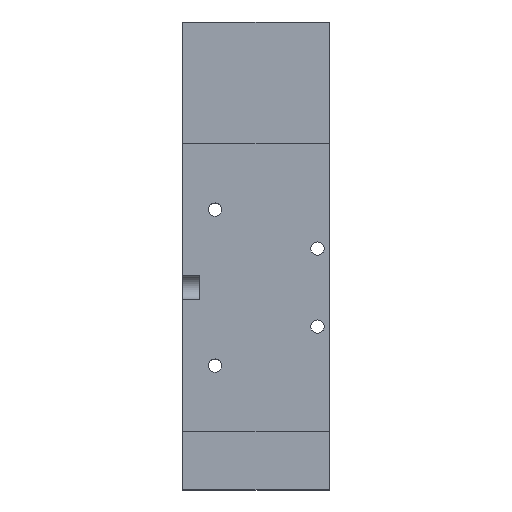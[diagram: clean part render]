
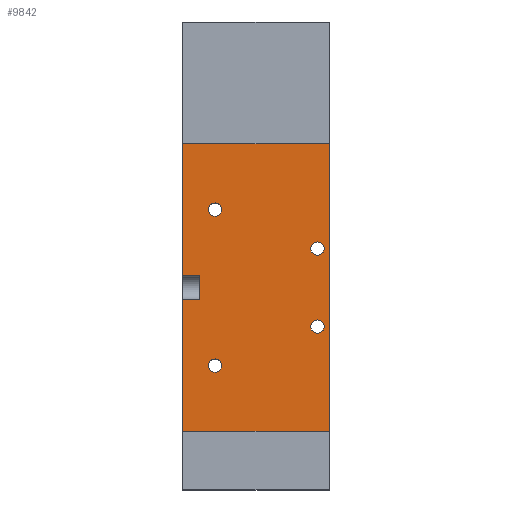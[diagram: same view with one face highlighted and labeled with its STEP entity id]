
A CAD part, front view. The second image highlights one B-rep face of the part: STEP entity #9842.
In plain terms, the highlighted planar face has unit normal (0, -1, 0).
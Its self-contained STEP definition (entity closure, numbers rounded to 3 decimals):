
#67 = AXIS2_PLACEMENT_3D ( 'NONE', #9245, #5981, #1229 ) ;
#265 = VERTEX_POINT ( 'NONE', #10364 ) ;
#684 = EDGE_CURVE ( 'NONE', #20392, #17866, #19107, .T. ) ;
#1229 = DIRECTION ( 'NONE',  ( 0., 0., -1. ) ) ;
#1317 = EDGE_LOOP ( 'NONE', ( #5761, #5879, #7862, #13280, #18558, #16921, #5735, #18130 ) ) ;
#1375 = VECTOR ( 'NONE', #8671, 1000. ) ;
#1401 = LINE ( 'NONE', #13881, #16219 ) ;
#1450 = EDGE_CURVE ( 'NONE', #19312, #16662, #2869, .T. ) ;
#1458 = EDGE_CURVE ( 'NONE', #3170, #12318, #17843, .T. ) ;
#1791 = CIRCLE ( 'NONE', #11354, 2.75 ) ;
#2351 = CARTESIAN_POINT ( 'NONE',  ( -11.097, 100.99, -88.703 ) ) ;
#2551 = EDGE_LOOP ( 'NONE', ( #19948, #17934 ) ) ;
#2647 = LINE ( 'NONE', #15005, #13009 ) ;
#2665 = ORIENTED_EDGE ( 'NONE', *, *, #4844, .T. ) ;
#2675 = CARTESIAN_POINT ( 'NONE',  ( 44.103, 100.99, -112.453 ) ) ;
#2869 = CIRCLE ( 'NONE', #12308, 2.75 ) ;
#3155 = AXIS2_PLACEMENT_3D ( 'NONE', #14961, #8686, #11835 ) ;
#3170 = VERTEX_POINT ( 'NONE', #8909 ) ;
#3744 = CARTESIAN_POINT ( 'NONE',  ( 44.103, 100.99, -77.703 ) ) ;
#3771 = EDGE_CURVE ( 'NONE', #17836, #9136, #6031, .T. ) ;
#3841 = AXIS2_PLACEMENT_3D ( 'NONE', #19145, #16146, #6744 ) ;
#3877 = DIRECTION ( 'NONE',  ( 1., 0., 0. ) ) ;
#3996 = FACE_BOUND ( 'NONE', #10973, .T. ) ;
#4257 = VECTOR ( 'NONE', #8836, 1000. ) ;
#4468 = DIRECTION ( 'NONE',  ( 0., 0., -1. ) ) ;
#4554 = CARTESIAN_POINT ( 'NONE',  ( 44.103, 100.99, -109.703 ) ) ;
#4688 = EDGE_CURVE ( 'NONE', #16662, #19312, #12317, .T. ) ;
#4844 = EDGE_CURVE ( 'NONE', #17866, #20392, #11082, .T. ) ;
#4909 = CARTESIAN_POINT ( 'NONE',  ( -4.097, 100.99, -98.703 ) ) ;
#5335 = LINE ( 'NONE', #12163, #19018 ) ;
#5536 = VERTEX_POINT ( 'NONE', #2351 ) ;
#5575 = DIRECTION ( 'NONE',  ( 0., 1., 0. ) ) ;
#5735 = ORIENTED_EDGE ( 'NONE', *, *, #17237, .F. ) ;
#5761 = ORIENTED_EDGE ( 'NONE', *, *, #14124, .T. ) ;
#5879 = ORIENTED_EDGE ( 'NONE', *, *, #7822, .T. ) ;
#5981 = DIRECTION ( 'NONE',  ( 0., 1., 0. ) ) ;
#6031 = CIRCLE ( 'NONE', #10263, 2.75 ) ;
#6621 = LINE ( 'NONE', #8801, #1375 ) ;
#6744 = DIRECTION ( 'NONE',  ( 0., 0., -1. ) ) ;
#7109 = CARTESIAN_POINT ( 'NONE',  ( 2.103, 100.99, -125.703 ) ) ;
#7197 = EDGE_CURVE ( 'NONE', #19678, #13965, #17085, .T. ) ;
#7378 = DIRECTION ( 'NONE',  ( -1., 0., 0. ) ) ;
#7379 = CARTESIAN_POINT ( 'NONE',  ( -11.097, 100.99, -98.703 ) ) ;
#7475 = EDGE_CURVE ( 'NONE', #19217, #3170, #12366, .T. ) ;
#7537 = ORIENTED_EDGE ( 'NONE', *, *, #684, .T. ) ;
#7707 = DIRECTION ( 'NONE',  ( 0., 0., -1. ) ) ;
#7789 = VERTEX_POINT ( 'NONE', #19299 ) ;
#7822 = EDGE_CURVE ( 'NONE', #5536, #7789, #8923, .T. ) ;
#7862 = ORIENTED_EDGE ( 'NONE', *, *, #20079, .F. ) ;
#8170 = FACE_BOUND ( 'NONE', #15307, .T. ) ;
#8407 = DIRECTION ( 'NONE',  ( 0., 0., -1. ) ) ;
#8542 = VECTOR ( 'NONE', #10073, 1000. ) ;
#8603 = ORIENTED_EDGE ( 'NONE', *, *, #1450, .T. ) ;
#8655 = CARTESIAN_POINT ( 'NONE',  ( 2.103, 100.99, -128.453 ) ) ;
#8671 = DIRECTION ( 'NONE',  ( 0., 0., 1. ) ) ;
#8686 = DIRECTION ( 'NONE',  ( 0., 1., 0. ) ) ;
#8801 = CARTESIAN_POINT ( 'NONE',  ( -4.097, 100.99, -34.703 ) ) ;
#8836 = DIRECTION ( 'NONE',  ( 1., 0., 0. ) ) ;
#8909 = CARTESIAN_POINT ( 'NONE',  ( -11.097, 100.99, -152.703 ) ) ;
#8923 = LINE ( 'NONE', #16743, #4257 ) ;
#8953 = DIRECTION ( 'NONE',  ( 0., 0., -1. ) ) ;
#9109 = VERTEX_POINT ( 'NONE', #4909 ) ;
#9136 = VERTEX_POINT ( 'NONE', #11298 ) ;
#9224 = CIRCLE ( 'NONE', #13221, 2.75 ) ;
#9245 = CARTESIAN_POINT ( 'NONE',  ( 48.903, 100.99, -34.703 ) ) ;
#9350 = DIRECTION ( 'NONE',  ( 0., 0., -1. ) ) ;
#9842 = ADVANCED_FACE ( 'NONE', ( #10128, #8170, #20425, #18459, #3996 ), #13798, .F. ) ;
#10073 = DIRECTION ( 'NONE',  ( 0., 0., -1. ) ) ;
#10102 = CARTESIAN_POINT ( 'NONE',  ( 2.103, 100.99, -61.703 ) ) ;
#10128 = FACE_BOUND ( 'NONE', #19259, .T. ) ;
#10263 = AXIS2_PLACEMENT_3D ( 'NONE', #18333, #12177, #8953 ) ;
#10288 = CARTESIAN_POINT ( 'NONE',  ( 2.103, 100.99, -125.703 ) ) ;
#10364 = CARTESIAN_POINT ( 'NONE',  ( 48.903, 100.99, -34.703 ) ) ;
#10973 = EDGE_LOOP ( 'NONE', ( #20365, #18937 ) ) ;
#11082 = CIRCLE ( 'NONE', #3155, 2.75 ) ;
#11298 = CARTESIAN_POINT ( 'NONE',  ( 2.103, 100.99, -64.453 ) ) ;
#11354 = AXIS2_PLACEMENT_3D ( 'NONE', #10288, #16685, #15123 ) ;
#11835 = DIRECTION ( 'NONE',  ( 0., 0., -1. ) ) ;
#12163 = CARTESIAN_POINT ( 'NONE',  ( 48.903, 100.99, -34.703 ) ) ;
#12177 = DIRECTION ( 'NONE',  ( 0., 1., 0. ) ) ;
#12295 = CARTESIAN_POINT ( 'NONE',  ( 44.103, 100.99, -80.453 ) ) ;
#12308 = AXIS2_PLACEMENT_3D ( 'NONE', #3744, #14871, #8407 ) ;
#12317 = CIRCLE ( 'NONE', #3841, 2.75 ) ;
#12318 = VERTEX_POINT ( 'NONE', #16316 ) ;
#12322 = EDGE_CURVE ( 'NONE', #9136, #17836, #9224, .T. ) ;
#12366 = LINE ( 'NONE', #12491, #19189 ) ;
#12491 = CARTESIAN_POINT ( 'NONE',  ( -11.097, 100.99, -34.703 ) ) ;
#12954 = LINE ( 'NONE', #17949, #8542 ) ;
#13009 = VECTOR ( 'NONE', #7378, 1000. ) ;
#13202 = DIRECTION ( 'NONE',  ( 0., 0., -1. ) ) ;
#13221 = AXIS2_PLACEMENT_3D ( 'NONE', #10102, #16379, #13202 ) ;
#13280 = ORIENTED_EDGE ( 'NONE', *, *, #18228, .T. ) ;
#13466 = DIRECTION ( 'NONE',  ( 0., 0., -1. ) ) ;
#13572 = CARTESIAN_POINT ( 'NONE',  ( 48.903, 100.99, -152.703 ) ) ;
#13798 = PLANE ( 'NONE',  #67 ) ;
#13881 = CARTESIAN_POINT ( 'NONE',  ( -11.097, 100.99, -34.703 ) ) ;
#13958 = VECTOR ( 'NONE', #3877, 1000. ) ;
#13965 = VERTEX_POINT ( 'NONE', #8655 ) ;
#14099 = CARTESIAN_POINT ( 'NONE',  ( 44.103, 100.99, -106.953 ) ) ;
#14124 = EDGE_CURVE ( 'NONE', #17246, #5536, #1401, .T. ) ;
#14685 = ORIENTED_EDGE ( 'NONE', *, *, #4688, .T. ) ;
#14871 = DIRECTION ( 'NONE',  ( 0., 1., 0. ) ) ;
#14961 = CARTESIAN_POINT ( 'NONE',  ( 44.103, 100.99, -109.703 ) ) ;
#15005 = CARTESIAN_POINT ( 'NONE',  ( 48.903, 100.99, -98.703 ) ) ;
#15123 = DIRECTION ( 'NONE',  ( 0., 0., -1. ) ) ;
#15127 = CARTESIAN_POINT ( 'NONE',  ( 44.103, 100.99, -74.953 ) ) ;
#15129 = CARTESIAN_POINT ( 'NONE',  ( 2.103, 100.99, -122.953 ) ) ;
#15157 = EDGE_CURVE ( 'NONE', #17246, #265, #5335, .T. ) ;
#15307 = EDGE_LOOP ( 'NONE', ( #8603, #14685 ) ) ;
#15536 = EDGE_CURVE ( 'NONE', #13965, #19678, #1791, .T. ) ;
#16146 = DIRECTION ( 'NONE',  ( 0., 1., 0. ) ) ;
#16219 = VECTOR ( 'NONE', #4468, 1000. ) ;
#16267 = CARTESIAN_POINT ( 'NONE',  ( 2.103, 100.99, -58.953 ) ) ;
#16316 = CARTESIAN_POINT ( 'NONE',  ( 48.903, 100.99, -152.703 ) ) ;
#16379 = DIRECTION ( 'NONE',  ( 0., 1., 0. ) ) ;
#16662 = VERTEX_POINT ( 'NONE', #15127 ) ;
#16685 = DIRECTION ( 'NONE',  ( 0., 1., 0. ) ) ;
#16743 = CARTESIAN_POINT ( 'NONE',  ( 48.903, 100.99, -88.703 ) ) ;
#16921 = ORIENTED_EDGE ( 'NONE', *, *, #1458, .T. ) ;
#17085 = CIRCLE ( 'NONE', #20091, 2.75 ) ;
#17237 = EDGE_CURVE ( 'NONE', #265, #12318, #12954, .T. ) ;
#17246 = VERTEX_POINT ( 'NONE', #19508 ) ;
#17836 = VERTEX_POINT ( 'NONE', #16267 ) ;
#17843 = LINE ( 'NONE', #13572, #13958 ) ;
#17866 = VERTEX_POINT ( 'NONE', #2675 ) ;
#17934 = ORIENTED_EDGE ( 'NONE', *, *, #3771, .T. ) ;
#17949 = CARTESIAN_POINT ( 'NONE',  ( 48.903, 100.99, -34.703 ) ) ;
#18130 = ORIENTED_EDGE ( 'NONE', *, *, #15157, .F. ) ;
#18228 = EDGE_CURVE ( 'NONE', #9109, #19217, #2647, .T. ) ;
#18333 = CARTESIAN_POINT ( 'NONE',  ( 2.103, 100.99, -61.703 ) ) ;
#18459 = FACE_BOUND ( 'NONE', #2551, .T. ) ;
#18529 = DIRECTION ( 'NONE',  ( 1., 0., 0. ) ) ;
#18558 = ORIENTED_EDGE ( 'NONE', *, *, #7475, .T. ) ;
#18937 = ORIENTED_EDGE ( 'NONE', *, *, #7197, .T. ) ;
#19018 = VECTOR ( 'NONE', #18529, 1000. ) ;
#19107 = CIRCLE ( 'NONE', #19186, 2.75 ) ;
#19145 = CARTESIAN_POINT ( 'NONE',  ( 44.103, 100.99, -77.703 ) ) ;
#19186 = AXIS2_PLACEMENT_3D ( 'NONE', #4554, #20248, #9350 ) ;
#19189 = VECTOR ( 'NONE', #7707, 1000. ) ;
#19217 = VERTEX_POINT ( 'NONE', #7379 ) ;
#19259 = EDGE_LOOP ( 'NONE', ( #2665, #7537 ) ) ;
#19299 = CARTESIAN_POINT ( 'NONE',  ( -4.097, 100.99, -88.703 ) ) ;
#19312 = VERTEX_POINT ( 'NONE', #12295 ) ;
#19508 = CARTESIAN_POINT ( 'NONE',  ( -11.097, 100.99, -34.703 ) ) ;
#19678 = VERTEX_POINT ( 'NONE', #15129 ) ;
#19948 = ORIENTED_EDGE ( 'NONE', *, *, #12322, .T. ) ;
#20079 = EDGE_CURVE ( 'NONE', #9109, #7789, #6621, .T. ) ;
#20091 = AXIS2_PLACEMENT_3D ( 'NONE', #7109, #5575, #13466 ) ;
#20248 = DIRECTION ( 'NONE',  ( 0., 1., 0. ) ) ;
#20365 = ORIENTED_EDGE ( 'NONE', *, *, #15536, .T. ) ;
#20392 = VERTEX_POINT ( 'NONE', #14099 ) ;
#20425 = FACE_OUTER_BOUND ( 'NONE', #1317, .T. ) ;
